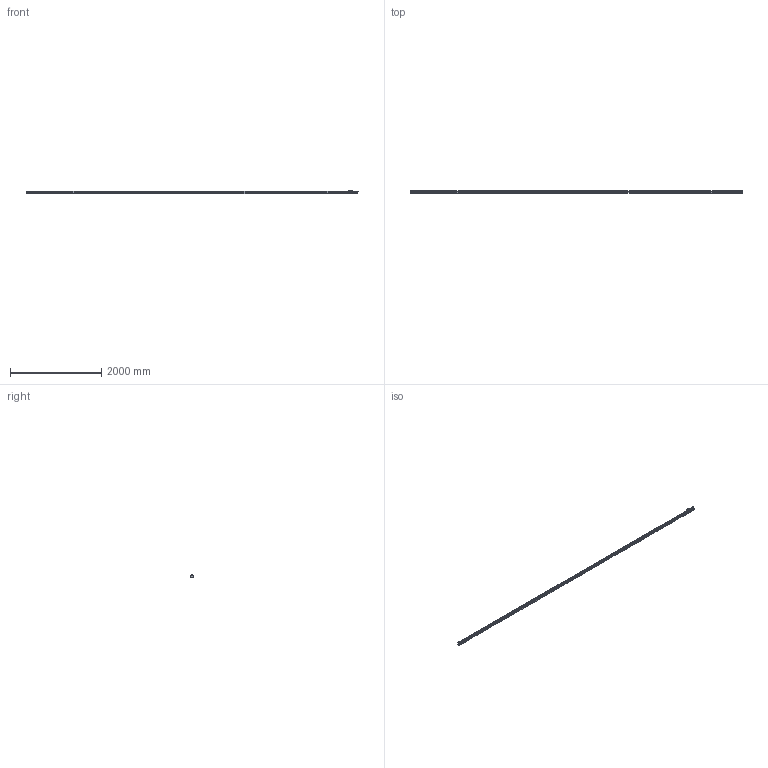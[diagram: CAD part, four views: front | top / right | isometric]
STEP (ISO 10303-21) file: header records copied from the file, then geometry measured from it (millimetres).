
FILE_DESCRIPTION(('Creo Elements/Direct Modeling STEP Export'),'2;1');
FILE_NAME('REGLA_L3_7040_M.stp','2021-02-04T 9:56:27',(''),(''),'Creo Elements/Direct Modeling STEP processor for AP214 (Solid Model)','Creo Elements/Direct Modeling 19.0G 27-Nov-2017 (C) Parametric Technology GmbH','');
FILE_SCHEMA(('AUTOMOTIVE_DESIGN { 1 0 10303 214 1 1 1 1 }'));
Length unit declared in the file: millimetre
Products named in the file (3): CABEZA_L3_M8; PERFIL_L3_7040; MOD_L3_7040_M
Assembly tree (2 placements, depth 2):
  MOD_L3_7040_M
    PERFIL_L3_7040
    CABEZA_L3_M8
Bounding box: 7290 x 50 x 85 mm (x, y, z)
Volume: 18897753.2 mm3; surface area: 2115402.5 mm2
Topology: 2 solids, 2 shells, 2402 faces, 6905 edges, 4604 vertices
Faces by surface type: plane 1213, cylinder 840, cone 234, bspline 59, torus 50, extrusion 6
Entity records: 94840 total; most frequent: CARTESIAN_POINT 26530, ORIENTED_EDGE 13794, DIRECTION 12300, EDGE_CURVE 6897, VERTEX_POINT 4604, VECTOR 4364, LINE 4358, AXIS2_PLACEMENT_3D 3968
